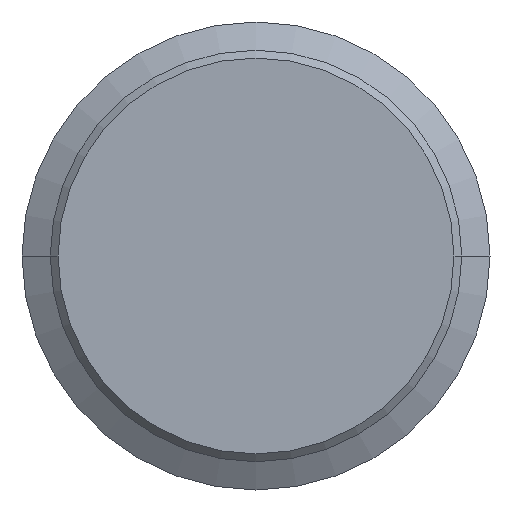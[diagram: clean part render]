
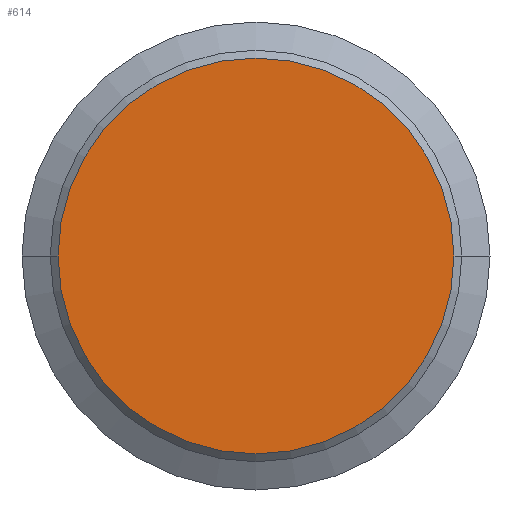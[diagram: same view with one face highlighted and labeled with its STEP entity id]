
A CAD part, front view. The second image highlights one B-rep face of the part: STEP entity #614.
In plain terms, the highlighted planar face has unit normal (0, -1, 0).
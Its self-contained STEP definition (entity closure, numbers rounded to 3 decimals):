
#10=CARTESIAN_POINT('',(0.,-41.,0.));
#11=DIRECTION('',(0.,1.,0.));
#12=DIRECTION('',(-1.,0.,0.));
#13=AXIS2_PLACEMENT_3D('',#10,#11,#12);
#32=CARTESIAN_POINT('',(0.,-41.,0.));
#33=DIRECTION('',(0.,-1.,0.));
#34=DIRECTION('',(-1.,0.,0.));
#35=AXIS2_PLACEMENT_3D('',#32,#33,#34);
#599=CARTESIAN_POINT('',(-5.075,-41.,0.));
#600=CARTESIAN_POINT('',(5.075,-41.,0.));
#601=VERTEX_POINT('',#599);
#602=VERTEX_POINT('',#600);
#603=CARTESIAN_POINT('',(0.,-41.,0.));
#604=DIRECTION('',(0.,-1.,0.));
#605=DIRECTION('',(1.,0.,0.));
#606=AXIS2_PLACEMENT_3D('',#603,#604,#605);
#607=PLANE('',#606);
#609=ORIENTED_EDGE('',*,*,#608,.T.);
#611=ORIENTED_EDGE('',*,*,#610,.F.);
#612=EDGE_LOOP('',(#609,#611));
#613=FACE_OUTER_BOUND('',#612,.F.);
#614=ADVANCED_FACE('',(#613),#607,.T.);
#14=CIRCLE('',#13,5.075);
#36=CIRCLE('',#35,5.075);
#608=EDGE_CURVE('',#601,#602,#14,.T.);
#610=EDGE_CURVE('',#601,#602,#36,.T.);
